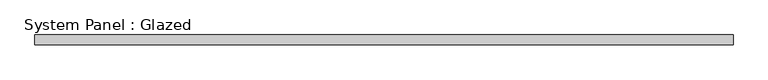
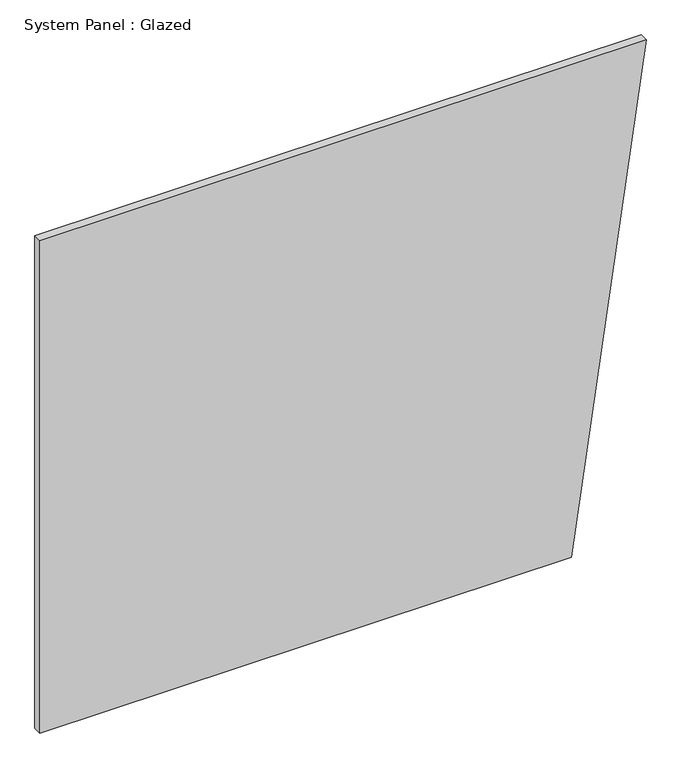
"""IFC4 building model written with IfcOpenShell, lengths in millimetres: plate geometry, System Panel : Glazed."""

from ifc_helpers import new_model, si_unit, frame, origin, place, context, project, spatial, polyline, outline, extrude, source, transform, mapped, element, save


def system_panel_glazed_8565c029(model_context):
    return source(origin(), model_context, "Body", "SweptSolid", [
        extrude(outline(polyline([(0.0, -888.0863308), (0.0, 668.8057552), (1524.0, 888.0863308), (1524.0, -888.0863308), (0.0, -888.0863308)])), frame((0.0, 19.05, 0.0), z_axis=(0.0, 1.0, 0.0), x_axis=(0.0, 0.0, 1.0)), (0.0, 0.0, 1.0), 25.4),
    ])


if __name__ == "__main__":
    model = new_model("IFC4")
    model_context = context("Model", 3, world=origin())
    ifc_project = project(units=[si_unit("LENGTHUNIT", "METRE", prefix="MILLI")], contexts=[model_context])
    site = spatial("IfcSite", under=ifc_project)
    building = spatial("IfcBuilding", under=site)
    placement = place(None, origin())
    system_panel_glazed_shape = system_panel_glazed_8565c029(model_context)
    element("IfcPlate", 1, ObjectType="System Panel : Glazed", at=placement, inside=building, context=model_context, shape_type="MappedRepresentation", body=[
        mapped(system_panel_glazed_shape, transform((0.0, 0.0, 0.0), x_axis=(1.0, 0.0, 0.0), y_axis=(0.0, 1.0, 0.0), z_axis=(0.0, 0.0, 1.0))),
    ])
    save(model, "model.ifc")
